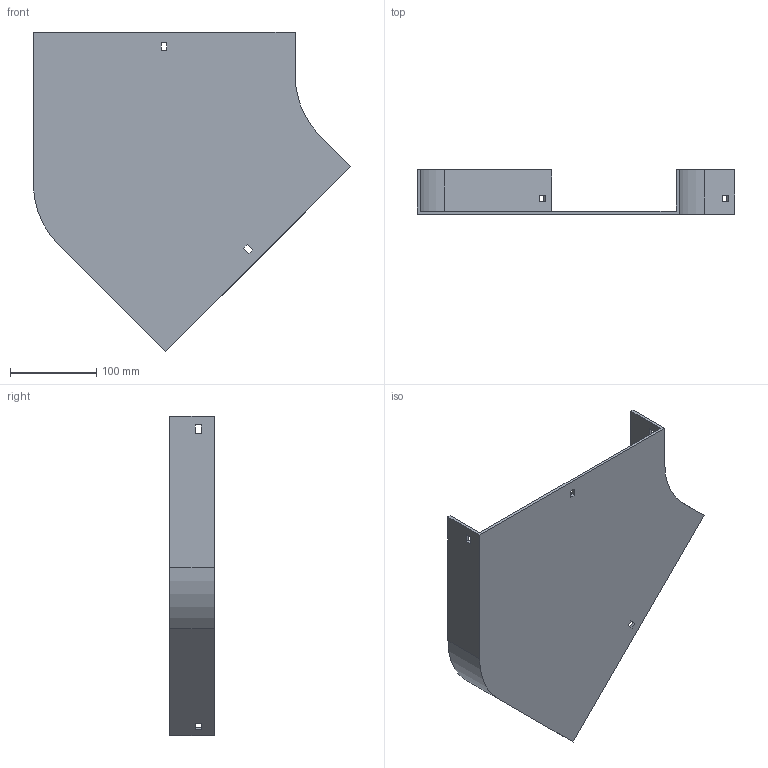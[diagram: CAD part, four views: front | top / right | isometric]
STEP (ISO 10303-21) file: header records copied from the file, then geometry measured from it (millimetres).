
FILE_DESCRIPTION (( 'STEP AP214' ), '1' );
FILE_NAME ('11B1B300.step', '2025-02-21T09:37:42', ( '' ), ( '' ), 'SwSTEP 2.0', 'SolidWorks 2023', '' );
FILE_SCHEMA (( 'AUTOMOTIVE_DESIGN' ));
Length unit declared in the file: millimetre
Products named in the file (1): 11B1B300
Bounding box: 368.64 x 52 x 371.03 mm (x, y, z)
Volume: 430499.4 mm3; surface area: 251630.9 mm2
Topology: 1 solids, 1 shells, 42 faces, 120 edges, 80 vertices
Faces by surface type: plane 38, cylinder 4
Entity records: 1399 total; most frequent: CARTESIAN_POINT 243, ORIENTED_EDGE 240, DIRECTION 214, EDGE_CURVE 120, VECTOR 112, LINE 112, VERTEX_POINT 80, EDGE_LOOP 54
